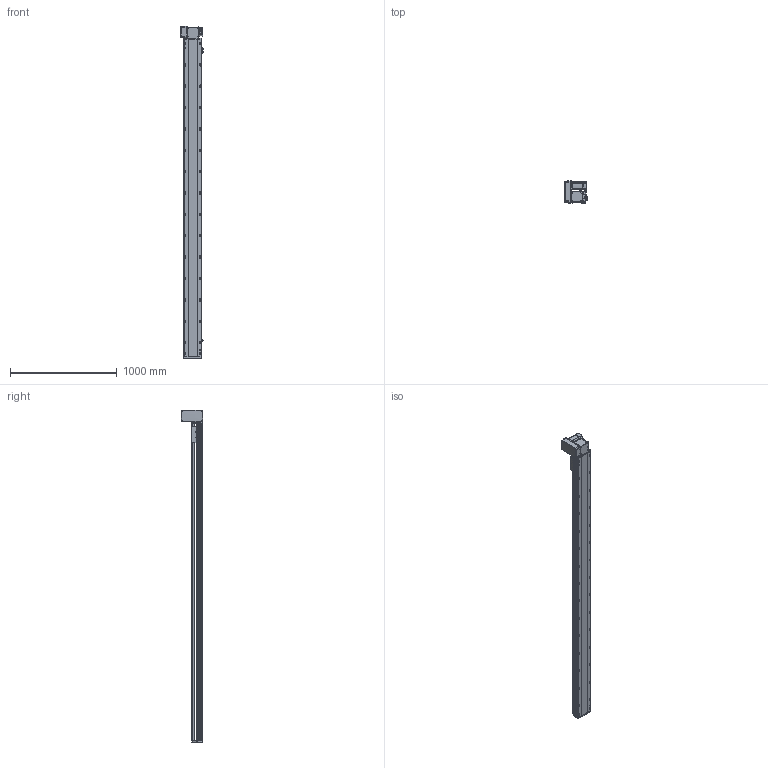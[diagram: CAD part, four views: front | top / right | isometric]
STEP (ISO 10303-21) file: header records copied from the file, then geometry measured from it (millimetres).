
FILE_DESCRIPTION (( 'STEP AP214' ), '1' );
FILE_NAME ('RTB17S-XX-2700-LW-M75-C4.STEP', '2025-12-12T01:18:30', ( '' ), ( '' ), 'SwSTEP 2.0', 'SolidWorks 2018', '' );
FILE_SCHEMA (( 'AUTOMOTIVE_DESIGN' ));
Length unit declared in the file: millimetre
Products named in the file (15): RTB22S-GY-005P^RTB17S-LW-々湍釱蚾饜-750W_RTB17S-XX-XX-LW-M75-C4; RTB17S-L-014-T20-P75--々湍釱^RTB17S-LW-々湍釱蚾饜-750W_RTB17S-XX-XX-LW-M75-C4; RTB22S-GY-018P^RTB17S-LW-々湍釱蚾饜-750W_RTB17S-XX-XX-LW-M75-C4; RTB22S-GY-008-M75--萇儂啣^RTB17S-LW-々湍釱蚾饜-750W_RTB17S-XX-XX-LW-M75-C4; RTB17S-L-001-耜醱啣^RTB17S-XX-XX-LW-M75-C4; RTB22S-GY-017P^RTB17S-LW-々湍釱蚾饜-750W_RTB17S-XX-XX-LW-M75-C4; RTH13-BL-012覜茼え俋离^RTB17S-賑釱_RTB17S-XX-XX-LW-M75-C4; RTB17-R-011菁釱^RTB17S-XX-XX-LW-M75-C4; RTB17S-賑釱^RTB17S-XX-XX-LW-M75-C4; RTB17S-XX-2700-LW-M75-C4; RTB17S-L-004-賑釱^RTB17S-賑釱_RTB17S-XX-XX-LW-M75-C4; 750W萇儂^RTB17S-XX-XX-LW-M75-C4; RTB17S-LW-々湍釱蚾饜-750W^RTB17S-XX-XX-LW-M75-C4; RTB17S-L-007奻裔^RTB17S-XX-XX-LW-M75-C4; EE672^RTB17S-XX-XX-LW-M75-C4
Assembly tree (17 placements, depth 3):
  RTB17S-XX-2700-LW-M75-C4
    RTB17-R-011菁釱^RTB17S-XX-XX-LW-M75-C4
    EE672^RTB17S-XX-XX-LW-M75-C4  x3
    RTB17S-L-001-耜醱啣^RTB17S-XX-XX-LW-M75-C4
    RTB17S-賑釱^RTB17S-XX-XX-LW-M75-C4
      RTB17S-L-004-賑釱^RTB17S-賑釱_RTB17S-XX-XX-LW-M75-C4
      RTH13-BL-012覜茼え俋离^RTB17S-賑釱_RTB17S-XX-XX-LW-M75-C4
    RTB17S-L-007奻裔^RTB17S-XX-XX-LW-M75-C4
    750W萇儂^RTB17S-XX-XX-LW-M75-C4
    RTB17S-LW-々湍釱蚾饜-750W^RTB17S-XX-XX-LW-M75-C4
      RTB17S-L-014-T20-P75--々湍釱^RTB17S-LW-々湍釱蚾饜-750W_RTB17S-XX-XX-LW-M75-C4
      RTB22S-GY-005P^RTB17S-LW-々湍釱蚾饜-750W_RTB17S-XX-XX-LW-M75-C4
      RTB22S-GY-017P^RTB17S-LW-々湍釱蚾饜-750W_RTB17S-XX-XX-LW-M75-C4  x2
      RTB22S-GY-008-M75--萇儂啣^RTB17S-LW-々湍釱蚾饜-750W_RTB17S-XX-XX-LW-M75-C4
      RTB22S-GY-018P^RTB17S-LW-々湍釱蚾饜-750W_RTB17S-XX-XX-LW-M75-C4
Bounding box: 210.4 x 201.5 x 3107.5 mm (x, y, z)
Volume: 22825488 mm3; surface area: 4159978 mm2
Topology: 17 solids, 17 shells, 2233 faces, 6268 edges, 4058 vertices
Faces by surface type: plane 988, cylinder 829, bspline 294, cone 110, sphere 8, torus 4
Entity records: 65014 total; most frequent: CARTESIAN_POINT 19332, ORIENTED_EDGE 9380, DIRECTION 8672, EDGE_CURVE 4690, AXIS2_PLACEMENT_3D 3078, VERTEX_POINT 3062, VECTOR 2516, LINE 2516
